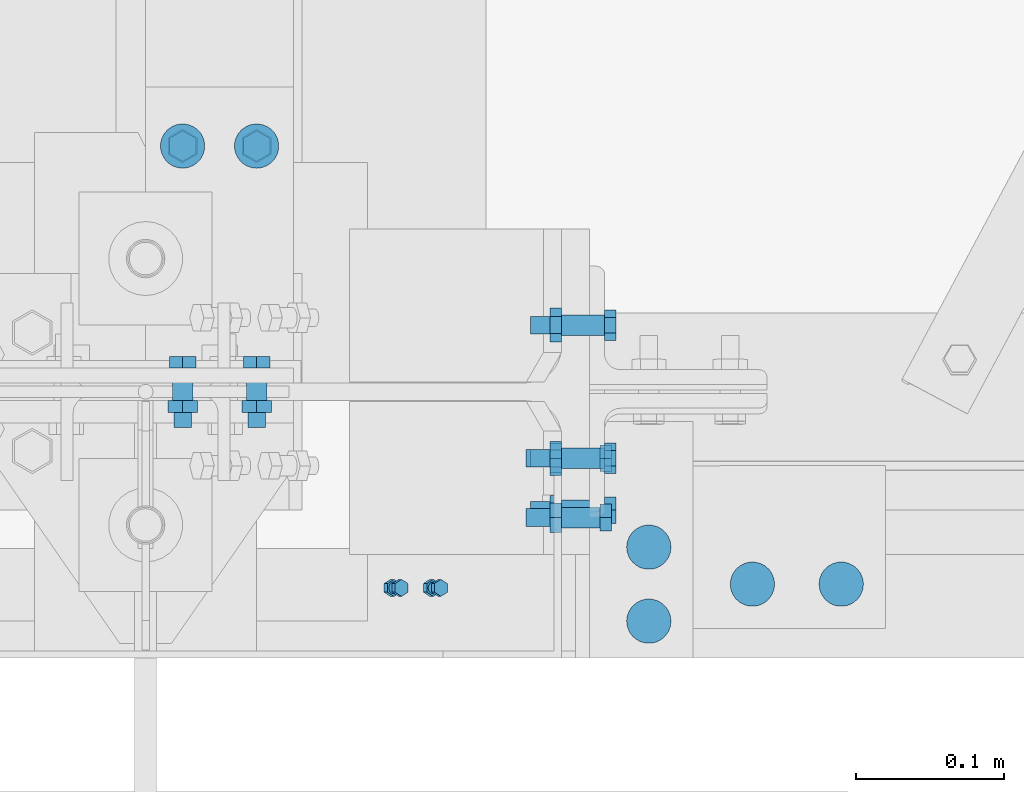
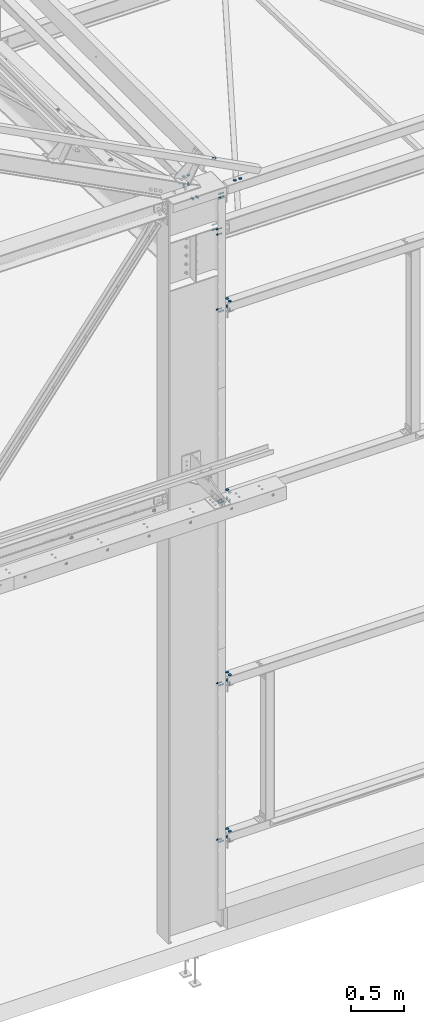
# One storey, part 271 of 362: 22 mechanical fasteners.
"""IFC2X3 building model written with IfcOpenShell, lengths in millimetres."""

import ifcopenshell
import ifcopenshell.guid

model = None  # the IFC model being written
_history = None  # IfcOwnerHistory: only IFC2X3 demands one
_inside = {}  # id of a spatial element -> (the spatial element, [elements in it])
_under = {}  # id of a project, library or spatial element -> (it, [spatial elements below it])
_declared = {}  # id of a project -> (the project, [libraries it declares])
_typed = {}  # id of a type object -> (the type object, [elements of that type])
_made_of = {}  # id of a material, layer set ... -> (it, [elements and type objects made of it])


def new_model(schema):
    """Start an empty IFC model of exactly this schema.

    Asked for "IFC4X3", IfcOpenShell would pick the latest addendum, in which some entities
    have other attributes; the version numbers below select the first issue.
    IFC2X3 requires an IfcOwnerHistory on every rooted entity: one is made here for all.
    """
    global model, _history
    if schema == "IFC4X3":
        model = ifcopenshell.file(schema_version=(4, 3, 0, 0))
    else:
        model = ifcopenshell.file(schema=schema)
    _inside.clear()
    _under.clear()
    _declared.clear()
    _typed.clear()
    _made_of.clear()
    _history = None
    if model.schema == "IFC2X3":
        org = make("IfcOrganization", Name="unknown")
        user = make(
            "IfcPersonAndOrganization",
            ThePerson=make("IfcPerson", FamilyName="unknown"),
            TheOrganization=org,
        )
        app = make(
            "IfcApplication",
            ApplicationDeveloper=org,
            Version="unknown",
            ApplicationFullName="unknown",
            ApplicationIdentifier="unknown",
        )
        _history = make(
            "IfcOwnerHistory",
            OwningUser=user,
            OwningApplication=app,
            ChangeAction="ADDED",
            CreationDate=0,
        )
    return model


def make(cls, **values):
    """One entity of the class cls with the attributes given. An attribute that is None is left unset."""
    return model.create_entity(
        cls, **{name: value for name, value in values.items() if value is not None}
    )


def rooted(cls, **values):
    """An entity with a GlobalId (a new one), such as an element, a storey or a relation."""
    return make(cls, GlobalId=ifcopenshell.guid.new(), OwnerHistory=_history, **values)


def si_unit(unit_type, name, prefix=None):
    """IfcSIUnit, for example si_unit("LENGTHUNIT", "METRE", prefix="MILLI")."""
    return make("IfcSIUnit", UnitType=unit_type, Prefix=prefix, Name=name)


def assignment(units):
    """IfcUnitAssignment: the units of a project."""
    return None if units is None else make("IfcUnitAssignment", Units=units)


def point(xyz):
    """IfcCartesianPoint."""
    return None if xyz is None else make("IfcCartesianPoint", Coordinates=xyz)


def direction(xyz):
    """IfcDirection."""
    return None if xyz is None else make("IfcDirection", DirectionRatios=xyz)


def frame(location, z_axis=None, x_axis=None):
    """IfcAxis2Placement3D, a coordinate frame: its origin and axes. An axis left out is left unset."""
    return make(
        "IfcAxis2Placement3D",
        Location=point(location),
        Axis=direction(z_axis),
        RefDirection=direction(x_axis),
    )


def frame_2d(location, x_axis=None):
    """IfcAxis2Placement2D, a coordinate frame in the plane: its origin and x axis."""
    return make(
        "IfcAxis2Placement2D", Location=point(location), RefDirection=direction(x_axis)
    )


def origin_with_axes():
    """The frame at (0, 0, 0) with the z axis (0, 0, 1) and the x axis (1, 0, 0) written out."""
    return frame((0.0, 0.0, 0.0), z_axis=(0.0, 0.0, 1.0), x_axis=(1.0, 0.0, 0.0))


def origin_2d_with_axis():
    """The frame at (0, 0) in the plane with the x axis (1, 0) written out."""
    return frame_2d((0.0, 0.0), x_axis=(1.0, 0.0))


def place(relative_to, where):
    """IfcLocalPlacement: puts the frame where relative to a parent placement (None: the world)."""
    return make(
        "IfcLocalPlacement", PlacementRelTo=relative_to, RelativePlacement=where
    )


def context(
    kind, dimensions, precision=None, world=None, true_north=None, identifier=None
):
    """IfcGeometricRepresentationContext, for example the 3D "Model" context."""
    return make(
        "IfcGeometricRepresentationContext",
        ContextIdentifier=identifier,
        ContextType=kind,
        CoordinateSpaceDimension=dimensions,
        Precision=precision,
        WorldCoordinateSystem=world,
        TrueNorth=true_north,
    )


def subcontext(parent, identifier, kind, view, scale=None):
    """IfcGeometricRepresentationSubContext, for example "Body" below "Model"."""
    return make(
        "IfcGeometricRepresentationSubContext",
        ContextIdentifier=identifier,
        ContextType=kind,
        ParentContext=parent,
        TargetScale=scale,
        TargetView=view,
    )


def project(units=None, contexts=None):
    """IfcProject with its units and contexts."""
    return rooted(
        "IfcProject",
        Name="project",
        RepresentationContexts=contexts,
        UnitsInContext=assignment(units),
    )


def spatial(cls, under=None, at=None, **own):
    """A site, building, storey or space (cls), placed at a placement, below another one or the project."""
    s = rooted(cls, ObjectPlacement=at, **own)
    if under is not None:
        _under.setdefault(under.id(), (under, []))[1].append(s)
    return s


def polyline(points):
    """IfcPolyline through the points."""
    return make("IfcPolyline", Points=[point(p) for p in points])


def profile(cls, at=None, kind="AREA", **sizes):
    """A parametric profile (cls). Its sizes go by their IFC names, for example OverallWidth=200.0."""
    return make(cls, ProfileType=kind, Position=at, **sizes)


def circle(**sizes):
    """IfcCircleProfileDef."""
    return profile("IfcCircleProfileDef", **sizes)


def outline(outer, holes=None, kind="AREA"):
    """IfcArbitraryClosedProfileDef: a profile drawn as a closed curve; with holes, ...WithVoids."""
    if holes is None:
        return make("IfcArbitraryClosedProfileDef", ProfileType=kind, OuterCurve=outer)
    return make(
        "IfcArbitraryProfileDefWithVoids",
        ProfileType=kind,
        OuterCurve=outer,
        InnerCurves=holes,
    )


def extrude(swept, where, along, depth):
    """IfcExtrudedAreaSolid: the profile swept, set in the frame where, extruded along a direction by depth."""
    return make(
        "IfcExtrudedAreaSolid",
        SweptArea=swept,
        Position=where,
        ExtrudedDirection=direction(along),
        Depth=depth,
    )


def shape(context_of_items, identifier, shape_type, items):
    """IfcShapeRepresentation: the items that make up one representation, for example the "Body"."""
    return make(
        "IfcShapeRepresentation",
        ContextOfItems=context_of_items,
        RepresentationIdentifier=identifier,
        RepresentationType=shape_type,
        Items=items,
    )


def source(mapping_origin, context_of_items, identifier, shape_type, items):
    """IfcRepresentationMap: a shape defined once, which mapped items show again and again."""
    return make(
        "IfcRepresentationMap",
        MappingOrigin=mapping_origin,
        MappedRepresentation=shape(context_of_items, identifier, shape_type, items),
    )


def transform(
    local_origin,
    x_axis=None,
    y_axis=None,
    z_axis=None,
    scale=None,
    scale2=None,
    scale3=None,
    uniform=True,
):
    """IfcCartesianTransformationOperator3D, or its non-uniform kind. x_axis, y_axis, z_axis: its Axis1, 2, 3."""
    if uniform:
        return make(
            "IfcCartesianTransformationOperator3D",
            Axis1=direction(x_axis),
            Axis2=direction(y_axis),
            LocalOrigin=point(local_origin),
            Scale=scale,
            Axis3=direction(z_axis),
        )
    return make(
        "IfcCartesianTransformationOperator3DnonUniform",
        Axis1=direction(x_axis),
        Axis2=direction(y_axis),
        LocalOrigin=point(local_origin),
        Scale=scale,
        Axis3=direction(z_axis),
        Scale2=scale2,
        Scale3=scale3,
    )


def mapped(mapping_source, mapping_target):
    """IfcMappedItem: shows the shape of a source again, moved by a transform."""
    return make(
        "IfcMappedItem", MappingSource=mapping_source, MappingTarget=mapping_target
    )


def material(Name=None, Category=None):
    """IfcMaterial."""
    return make("IfcMaterial", Name=Name, Category=Category)


def made_of(thing, what):
    """Note that an element or type object is made of a material, layer set ...; save() writes the relation."""
    if what is not None:
        _made_of.setdefault(what.id(), (what, []))[1].append(thing)
    return thing


def type_object(cls, material=None, **own):
    """A type object (cls), such as IfcWallType, which elements share."""
    return made_of(rooted(cls, **own), material)


def element(
    cls,
    number,
    at=None,
    inside=None,
    cuts=None,
    type_object=None,
    material=None,
    context=None,
    identifier="Body",
    shape_type=None,
    held_by="IfcProductDefinitionShape",
    body=None,
    shapes=None,
    **own,
):
    """One element of the class cls, such as IfcWall. Its Tag is "e" and its number.

    at: its placement. inside: the storey or other place that contains it. cuts: it is an
    opening in that element (IfcRelVoidsElement). A single representation is given by context,
    identifier, shape_type and body (its items); several are given by shapes. held_by: the class
    of the entity that holds the representations. save() writes the other relations.
    """
    e = rooted(cls, Tag="e%d" % number, ObjectPlacement=at, **own)
    if body is not None:
        shapes = [shape(context, identifier, shape_type, body)]
    if shapes is not None:
        e.Representation = make(held_by, Representations=shapes)
    if inside is not None:
        _inside.setdefault(inside.id(), (inside, []))[1].append(e)
    if cuts is not None:
        rooted(
            "IfcRelVoidsElement", RelatingBuildingElement=cuts, RelatedOpeningElement=e
        )
    if type_object is not None:
        _typed.setdefault(type_object.id(), (type_object, []))[1].append(e)
    return made_of(e, material)


def aggregate(whole, parts):
    """IfcRelAggregates: a whole, such as a stair, and the parts it consists of."""
    return rooted("IfcRelAggregates", RelatingObject=whole, RelatedObjects=parts)


def save(model, path):
    """Write the relations noted so far, then the file.

    IfcRelAggregates (storeys below a building ...), IfcRelContainedInSpatialStructure (elements
    in a storey), IfcRelDefinesByType, IfcRelAssociatesMaterial and IfcRelDeclares: one each for
    every whole, place, type object, material and project.
    """
    for whole, parts in _under.values():
        aggregate(whole, parts)
    for where, things in _inside.values():
        rooted(
            "IfcRelContainedInSpatialStructure",
            RelatedElements=things,
            RelatingStructure=where,
        )
    for kind, things in _typed.values():
        rooted("IfcRelDefinesByType", RelatedObjects=things, RelatingType=kind)
    for what, things in _made_of.values():
        rooted("IfcRelAssociatesMaterial", RelatedObjects=things, RelatingMaterial=what)
    for by, libraries in _declared.values():
        rooted("IfcRelDeclares", RelatingContext=by, RelatedDefinitions=libraries)
    model.write(path)


model = new_model("IFC2X3")

# Units and contexts
model_context = context("Model", 3, precision=1e-05, world=origin_with_axes())
body_context = subcontext(model_context, "Body", "Model", "MODEL_VIEW")
ifc_project = project(units=[si_unit("LENGTHUNIT", "METRE", prefix="MILLI"), si_unit("AREAUNIT", "SQUARE_METRE"), si_unit("VOLUMEUNIT", "CUBIC_METRE"), si_unit("MASSUNIT", "GRAM", prefix="KILO"), si_unit("TIMEUNIT", "SECOND"), si_unit("PLANEANGLEUNIT", "RADIAN"), si_unit("SOLIDANGLEUNIT", "STERADIAN"), si_unit("THERMODYNAMICTEMPERATUREUNIT", "DEGREE_CELSIUS"), si_unit("LUMINOUSINTENSITYUNIT", "LUMEN")], contexts=[model_context])

# Site, building, storey
site_placement = place(None, origin_with_axes())
site = spatial("IfcSite", under=ifc_project, at=site_placement, Name="Undefined", CompositionType="ELEMENT")
building_placement = place(site_placement, origin_with_axes())
building = spatial("IfcBuilding", under=site, at=building_placement, Name="Undefined", CompositionType="ELEMENT")
storey_placement = place(building_placement, origin_with_axes())
storey = spatial("IfcBuildingStorey", under=building, at=storey_placement, Name="Undefined", CompositionType="ELEMENT", Elevation=0.0)

# Mechanical fasteners
ifc_material_1 = material(Name="6.8")
mechanical_fastener_type = type_object("IfcMechanicalFastenerType", Name="Bolt assembly")
shared_shape_1 = source(origin_with_axes(), body_context, "Body", "SweptSolid", [
    extrude(circle(Radius=15.0, at=origin_2d_with_axis()), frame((0.0, 0.0, 0.0), z_axis=(0.0, 1.0, 0.0), x_axis=(1.0, 0.0, 0.0)), (0.0, 0.0, 1.0), 4.1),
])
mechanical_fastener_1_placement = place(storey_placement, frame((28930.0, 166.0, 8550.0), z_axis=(1.0, 0.0, 0.0), x_axis=(0.0, -1.0, 0.0)))
element("IfcMechanicalFastener", 1, at=mechanical_fastener_1_placement, inside=storey, type_object=mechanical_fastener_type, material=ifc_material_1, Name="Bolt assembly", NominalDiameter=30.0, NominalLength=4.0, context=body_context, shape_type="MappedRepresentation", body=[
    mapped(shared_shape_1, transform((0.0, 0.0, -25.0))),
    mapped(shared_shape_1, transform((0.0, 0.0, 25.0))),
])
shared_shape_2 = source(origin_with_axes(), body_context, "Body", "SweptSolid", [
    extrude(circle(Radius=4.0, at=origin_2d_with_axis()), frame((0.0, 0.000837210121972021, 0.0), z_axis=(0.0, 1.0, 0.0), x_axis=(1.0, 0.0, 0.0)), (0.0, 0.0, 1.0), 7.1),
    extrude(outline(polyline([(5.7735026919, 0.0), (2.88675134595, 5.00000000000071), (-2.88675134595, 5.00000000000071), (-5.7735026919, 0.0), (-2.88675134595, -5.00000000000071), (2.88675134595, -5.00000000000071), (5.7735026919, 0.0)])), frame((0.0, -3.99916278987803, 0.0), z_axis=(0.0, 1.0, 0.0), x_axis=(1.0, 0.0, 0.0)), (0.0, 0.0, 1.0), 4.0),
    extrude(circle(Radius=3.0, at=origin_2d_with_axis()), frame((0.0, 0.000837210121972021, 0.0), z_axis=(0.0, 1.0, 0.0), x_axis=(1.0, 0.0, 0.0)), (0.0, 0.0, 1.0), 16.0),
    extrude(outline(polyline([(5.7735026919, 0.0), (2.88675134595, 5.00000000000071), (-2.88675134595, 5.00000000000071), (-5.7735026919, 0.0), (-2.88675134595, -5.00000000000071), (2.88675134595, -5.00000000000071), (5.7735026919, 0.0)])), frame((0.0, 7.0008372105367, 0.0), z_axis=(0.0, 1.0, 0.0), x_axis=(1.0, 0.0, 0.0)), (0.0, 0.0, 1.0), 5.2),
])
mechanical_fastener_2_placement = place(storey_placement, frame((29064.3880632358, -132.499920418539, 8885.83081019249), z_axis=(-0.887875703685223, 0.0, 0.460083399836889), x_axis=(0.0, 1.0, 0.0)))
element("IfcMechanicalFastener", 2, at=mechanical_fastener_2_placement, inside=storey, type_object=mechanical_fastener_type, material=ifc_material_1, Name="Bolt assembly", NominalDiameter=6.0, NominalLength=16.0, context=body_context, shape_type="MappedRepresentation", body=[
    mapped(shared_shape_2, transform((0.0, 0.0, -15.0))),
    mapped(shared_shape_2, transform((0.0, -3.63797880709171e-12, 15.0000000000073))),
])
ifc_material_2 = material(Name="8.8-SB-ZINGUE")
shared_shape_3 = source(origin_with_axes(), body_context, "Body", "SweptSolid", [
    extrude(circle(Radius=7.0, at=origin_2d_with_axis()), frame((0.0, -3.89999843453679, 0.0), z_axis=(0.0, 1.0, 0.0), x_axis=(1.0, 0.0, 0.0)), (0.0, 0.0, 1.0), 4.0),
    extrude(circle(Radius=7.0, at=origin_2d_with_axis()), frame((0.0, -0.100011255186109, 0.0), z_axis=(0.0, 1.0, 0.0), x_axis=(1.0, 0.0, 0.0)), (0.0, 0.0, 1.0), 10.1),
    extrude(outline(polyline([(10.39230484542, 0.0), (5.19615242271, 9.00000000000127), (-5.19615242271, 9.00000000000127), (-10.39230484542, 0.0), (-5.19615242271, -9.00000000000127), (5.19615242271, -9.00000000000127), (10.39230484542, 0.0)])), frame((0.0, -11.9199984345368, 0.0), z_axis=(0.0, 1.0, 0.0), x_axis=(1.0, 0.0, 0.0)), (0.0, 0.0, 1.0), 7.92),
    extrude(circle(Radius=6.0, at=origin_2d_with_axis()), frame((0.0, -3.99999923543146, 0.0), z_axis=(0.0, 1.0, 0.0), x_axis=(1.0, 0.0, 0.0)), (0.0, 0.0, 1.0), 30.0),
    extrude(outline(polyline([(11.5008173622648, 0.0), (5.7504086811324, 9.96000000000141), (-5.7504086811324, 9.96000000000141), (-11.5008173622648, 0.0), (-5.7504086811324, -9.96000000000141), (5.7504086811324, -9.96000000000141), (11.5008173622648, 0.0)])), frame((0.0, 10.0000000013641, 0.0), z_axis=(0.0, 1.0, 0.0), x_axis=(1.0, 0.0, 0.0)), (0.0, 0.0, 1.0), 7.92),
])
mechanical_fastener_3_placement = place(storey_placement, frame((28930.0, 166.0, 8450.0), z_axis=(1.0, 0.0, 0.0), x_axis=(0.0, -1.0, 0.0)))
element("IfcMechanicalFastener", 3, at=mechanical_fastener_3_placement, inside=storey, type_object=mechanical_fastener_type, material=ifc_material_2, Name="Bolt assembly", NominalDiameter=12.0, NominalLength=30.0, context=body_context, shape_type="MappedRepresentation", body=[
    mapped(shared_shape_3, transform((0.0, 0.0, -25.0))),
    mapped(shared_shape_3, transform((0.0, 0.0, 25.0))),
])
shared_shape_4 = source(origin_with_axes(), body_context, "Body", "SweptSolid", [
    extrude(circle(Radius=15.0, at=origin_2d_with_axis()), frame((0.0, -0.00127693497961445, 0.0), z_axis=(0.0, 1.0, 0.0), x_axis=(1.0, 0.0, 0.0)), (0.0, 0.0, 1.0), 4.1),
])
mechanical_fastener_4_placement = place(storey_placement, frame((29349.9919475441, -130.000005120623, 8549.99872306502), z_axis=(0.0, -1.0, 0.0), x_axis=(-1.0, 0.0, 0.0)))
element("IfcMechanicalFastener", 4, at=mechanical_fastener_4_placement, inside=storey, type_object=mechanical_fastener_type, material=ifc_material_1, Name="Bolt assembly", NominalDiameter=30.0, NominalLength=4.0, context=body_context, shape_type="MappedRepresentation", body=[
    mapped(shared_shape_4, transform((0.0, 0.0, 0.0))),
    mapped(shared_shape_4, transform((60.0, 0.0, 0.0))),
])
shared_shape_5 = source(origin_with_axes(), body_context, "Body", "SweptSolid", [
    extrude(circle(Radius=7.0, at=origin_2d_with_axis()), frame((0.0, -0.105205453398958, 0.0), z_axis=(0.0, 1.0, 0.0), x_axis=(1.0, 0.0, 0.0)), (0.0, 0.0, 1.0), 19.1),
    extrude(circle(Radius=7.0, at=origin_2d_with_axis()), frame((0.0, -9.90024512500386, 0.0), z_axis=(0.0, 1.0, 0.0), x_axis=(1.0, 0.0, 0.0)), (0.0, 0.0, 1.0), 10.0),
    extrude(outline(polyline([(10.39230484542, 0.0), (5.19615242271, 9.00000000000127), (-5.19615242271, 9.00000000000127), (-10.39230484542, 0.0), (-5.19615242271, -9.00000000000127), (5.19615242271, -9.00000000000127), (10.39230484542, 0.0)])), frame((0.0, -17.9202451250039, 0.0), z_axis=(0.0, 1.0, 0.0), x_axis=(1.0, 0.0, 0.0)), (0.0, 0.0, 1.0), 7.92),
    extrude(circle(Radius=6.0, at=origin_2d_with_axis()), frame((0.0, -10.0002451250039, 0.0), z_axis=(0.0, 1.0, 0.0), x_axis=(1.0, 0.0, 0.0)), (0.0, 0.0, 1.0), 50.0),
    extrude(outline(polyline([(11.5008173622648, 0.0), (5.7504086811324, 9.96000000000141), (-5.7504086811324, 9.96000000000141), (-11.5008173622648, 0.0), (-5.7504086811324, -9.96000000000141), (5.7504086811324, -9.96000000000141), (11.5008173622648, 0.0)])), frame((0.0, 18.994794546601, 0.0), z_axis=(0.0, 1.0, 0.0), x_axis=(1.0, 0.0, 0.0)), (0.0, 0.0, 1.0), 7.92),
])
mechanical_fastener_5_placement = place(storey_placement, frame((29179.9947424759, -80.0000085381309, 8369.99872306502), z_axis=(0.0, -1.0, 0.0), x_axis=(0.0, 0.0, 1.0)))
element("IfcMechanicalFastener", 5, at=mechanical_fastener_5_placement, inside=storey, type_object=mechanical_fastener_type, material=ifc_material_2, Name="Bolt assembly", NominalDiameter=12.0, NominalLength=50.0, context=body_context, shape_type="MappedRepresentation", body=[
    mapped(shared_shape_5, transform((0.0, 0.0, 0.0))),
    mapped(shared_shape_5, transform((40.0, 0.0, 0.0))),
])
shared_shape_6 = source(origin_with_axes(), body_context, "Body", "SweptSolid", [
    extrude(circle(Radius=7.0, at=origin_2d_with_axis()), frame((0.0, -0.100011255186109, 0.0), z_axis=(0.0, 1.0, 0.0), x_axis=(1.0, 0.0, 0.0)), (0.0, 0.0, 1.0), 12.1),
    extrude(circle(Radius=7.0, at=origin_2d_with_axis()), frame((0.0, -9.9, 0.0), z_axis=(0.0, 1.0, 0.0), x_axis=(1.0, 0.0, 0.0)), (0.0, 0.0, 1.0), 10.0),
    extrude(outline(polyline([(10.39230484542, 0.0), (5.19615242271, 9.00000000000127), (-5.19615242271, 9.00000000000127), (-10.39230484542, 0.0), (-5.19615242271, -9.00000000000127), (5.19615242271, -9.00000000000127), (10.39230484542, 0.0)])), frame((0.0, -17.92, 0.0), z_axis=(0.0, 1.0, 0.0), x_axis=(1.0, 0.0, 0.0)), (0.0, 0.0, 1.0), 7.92),
    extrude(circle(Radius=6.0, at=origin_2d_with_axis()), frame((0.0, -10.0000010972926, 0.0), z_axis=(0.0, 1.0, 0.0), x_axis=(1.0, 0.0, 0.0)), (0.0, 0.0, 1.0), 40.0),
    extrude(outline(polyline([(11.5008173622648, 0.0), (5.7504086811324, 9.96000000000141), (-5.7504086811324, 9.96000000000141), (-11.5008173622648, 0.0), (-5.7504086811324, -9.96000000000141), (5.7504086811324, -9.96000000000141), (11.5008173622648, 0.0)])), frame((0.0, 12.0000270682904, 0.0), z_axis=(0.0, 1.0, 0.0), x_axis=(1.0, 0.0, 0.0)), (0.0, 0.0, 1.0), 7.92),
])
mechanical_fastener_6_placement = place(storey_placement, frame((28930.0, 6.0, 8395.0), z_axis=(1.0, 0.0, 0.0), x_axis=(0.0, 0.0, 1.0)))
element("IfcMechanicalFastener", 6, at=mechanical_fastener_6_placement, inside=storey, type_object=mechanical_fastener_type, material=ifc_material_2, Name="Bolt assembly", NominalDiameter=12.0, NominalLength=40.0, context=body_context, shape_type="MappedRepresentation", body=[
    mapped(shared_shape_6, transform((0.0, 0.0, -25.0))),
    mapped(shared_shape_6, transform((0.0, 0.0, 25.0))),
])
shared_shape_7 = source(origin_with_axes(), body_context, "Body", "SweptSolid", [
    extrude(circle(Radius=7.0, at=origin_2d_with_axis()), frame((0.0, -0.0976770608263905, 0.0), z_axis=(0.0, 1.0, 0.0), x_axis=(1.0, 0.0, 0.0)), (0.0, 0.0, 1.0), 19.1),
    extrude(circle(Radius=7.0, at=origin_2d_with_axis()), frame((0.0, -9.9, 0.0), z_axis=(0.0, 1.0, 0.0), x_axis=(1.0, 0.0, 0.0)), (0.0, 0.0, 1.0), 10.0),
    extrude(outline(polyline([(10.39230484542, 0.0), (5.19615242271, 9.00000000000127), (-5.19615242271, 9.00000000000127), (-10.39230484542, 0.0), (-5.19615242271, -9.00000000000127), (5.19615242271, -9.00000000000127), (10.39230484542, 0.0)])), frame((0.0, -17.92, 0.0), z_axis=(0.0, 1.0, 0.0), x_axis=(1.0, 0.0, 0.0)), (0.0, 0.0, 1.0), 7.92),
    extrude(circle(Radius=6.0, at=origin_2d_with_axis()), frame((0.0, -10.0000010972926, 0.0), z_axis=(0.0, 1.0, 0.0), x_axis=(1.0, 0.0, 0.0)), (0.0, 0.0, 1.0), 50.0),
    extrude(outline(polyline([(11.5008173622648, 0.0), (5.7504086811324, 9.96000000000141), (-5.7504086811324, 9.96000000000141), (-11.5008173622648, 0.0), (-5.7504086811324, -9.96000000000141), (5.7504086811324, -9.96000000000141), (11.5008173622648, 0.0)])), frame((0.0, 19.0023229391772, 0.0), z_axis=(0.0, 1.0, 0.0), x_axis=(1.0, 0.0, 0.0)), (0.0, 0.0, 1.0), 7.92),
])
for number, where, z_axis, x_axis, name in (
    (7, (29180.0021428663, 44.9977331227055, 7978.55473722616), (0.0, 0.0, 1.0), (0.0, 1.0, 0.0), "Bolt assembly"),
    (8, (29180.0021428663, 44.9977331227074, 7918.52511536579), (0.0, 0.0, 1.0), (0.0, 1.0, 0.0), "Bolt assembly"),
    (9, (29180.0021428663, -45.0022668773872, 7921.3535206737), (0.0, 0.0, -1.0), (0.0, -1.0, 0.0), "Bolt assembly"),
    (10, (29180.0021428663, -45.0022668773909, 7981.38314253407), (0.0, 0.0, -1.0), (0.0, -1.0, 0.0), "Bolt assembly"),
):
    element("IfcMechanicalFastener", number, at=place(storey_placement, frame(where, z_axis=z_axis, x_axis=x_axis)), inside=storey, type_object=mechanical_fastener_type, material=ifc_material_2, Name=name, NominalDiameter=12.0, NominalLength=50.0, context=body_context, shape_type="MappedRepresentation", body=[
        mapped(shared_shape_7, transform((0.0, 0.0, 0.0))),
    ])
shared_shape_8 = source(origin_with_axes(), body_context, "Body", "SweptSolid", [
    extrude(circle(Radius=7.0, at=origin_2d_with_axis()), frame((0.0, -0.0970209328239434, 0.0), z_axis=(0.0, 1.0, 0.0), x_axis=(1.0, 0.0, 0.0)), (0.0, 0.0, 1.0), 19.1),
    extrude(circle(Radius=7.0, at=origin_2d_with_axis()), frame((0.0, -6.900741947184, 0.0), z_axis=(0.0, 1.0, 0.0), x_axis=(1.0, 0.0, 0.0)), (0.0, 0.0, 1.0), 7.0),
    extrude(outline(polyline([(10.39230484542, 0.0), (5.19615242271, 9.00000000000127), (-5.19615242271, 9.00000000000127), (-10.39230484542, 0.0), (-5.19615242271, -9.00000000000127), (5.19615242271, -9.00000000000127), (10.39230484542, 0.0)])), frame((0.0, -14.920741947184, 0.0), z_axis=(0.0, 1.0, 0.0), x_axis=(1.0, 0.0, 0.0)), (0.0, 0.0, 1.0), 7.92),
    extrude(circle(Radius=6.0, at=origin_2d_with_axis()), frame((0.0, -7.000741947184, 0.0), z_axis=(0.0, 1.0, 0.0), x_axis=(1.0, 0.0, 0.0)), (0.0, 0.0, 1.0), 50.0),
    extrude(outline(polyline([(11.5008173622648, 0.0), (5.7504086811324, 9.96000000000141), (-5.7504086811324, 9.96000000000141), (-11.5008173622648, 0.0), (-5.7504086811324, -9.96000000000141), (5.7504086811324, -9.96000000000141), (11.5008173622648, 0.0)])), frame((0.0, 19.0030043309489, 0.0), z_axis=(0.0, 1.0, 0.0), x_axis=(1.0, 0.0, 0.0)), (0.0, 0.0, 1.0), 7.92),
])
mechanical_fastener_7_placement = place(storey_placement, frame((29180.0005291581, -65.0000001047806, 959.992196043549), z_axis=(0.0, -1.0, 0.0), x_axis=(-5.58310001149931e-05, -3.00000033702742e-09, 0.99999999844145)))
element("IfcMechanicalFastener", 11, at=mechanical_fastener_7_placement, inside=storey, type_object=mechanical_fastener_type, material=ifc_material_2, Name="Bolt assembly", NominalDiameter=12.0, NominalLength=50.0, context=body_context, shape_type="MappedRepresentation", body=[
    mapped(shared_shape_8, transform((-1.70530256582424e-12, 0.0, 20.0))),
    mapped(shared_shape_8, transform((1.70530256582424e-12, 0.0, -20.0))),
])
shared_shape_9 = source(origin_with_axes(), body_context, "Body", "SweptSolid", [
    extrude(circle(Radius=7.0, at=origin_2d_with_axis()), frame((0.0, -0.0960977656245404, 0.0), z_axis=(0.0, 1.0, 0.0), x_axis=(1.0, 0.0, 0.0)), (0.0, 0.0, 1.0), 4.1),
    extrude(circle(Radius=7.0, at=origin_2d_with_axis()), frame((0.0, -6.9, 0.0), z_axis=(0.0, 1.0, 0.0), x_axis=(1.0, 0.0, 0.0)), (0.0, 0.0, 1.0), 7.0),
    extrude(outline(polyline([(10.39230484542, 0.0), (5.19615242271, 9.00000000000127), (-5.19615242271, 9.00000000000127), (-10.39230484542, 0.0), (-5.19615242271, -9.00000000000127), (5.19615242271, -9.00000000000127), (10.39230484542, 0.0)])), frame((0.0, -14.92, 0.0), z_axis=(0.0, 1.0, 0.0), x_axis=(1.0, 0.0, 0.0)), (0.0, 0.0, 1.0), 7.92),
    extrude(circle(Radius=6.0, at=origin_2d_with_axis()), frame((0.0, -7.0, 0.0), z_axis=(0.0, 1.0, 0.0), x_axis=(1.0, 0.0, 0.0)), (0.0, 0.0, 1.0), 30.0),
    extrude(outline(polyline([(11.5008173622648, 0.0), (5.7504086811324, 9.96000000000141), (-5.7504086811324, 9.96000000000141), (-11.5008173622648, 0.0), (-5.7504086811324, -9.96000000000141), (5.7504086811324, -9.96000000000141), (11.5008173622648, 0.0)])), frame((0.0, 4.00390223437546, 0.0), z_axis=(0.0, 1.0, 0.0), x_axis=(1.0, 0.0, 0.0)), (0.0, 0.0, 1.0), 7.92),
])
for number, where, z_axis, x_axis, name in (
    (12, (29220.0012715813, -130.000007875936, 999.996098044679), (0.0, 1.0, 0.0), (-1.0, 0.0, 0.0), "Bolt assembly"),
    (13, (29220.0012288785, -130.000007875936, 7099.99609804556), (0.0, 1.0, 0.0), (-1.0, 0.0, 0.0), "Bolt assembly"),
    (14, (29220.0012589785, -130.000007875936, 2799.99609804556), (0.0, 1.0, 0.0), (-1.0, 0.0, 0.0), "Bolt assembly"),
    (15, (29220.0012589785, -130.000007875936, 4899.99609804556), (0.0, 1.0, 0.0), (-1.0, 0.0, 0.0), "Bolt assembly"),
):
    element("IfcMechanicalFastener", number, at=place(storey_placement, frame(where, z_axis=z_axis, x_axis=x_axis)), inside=storey, type_object=mechanical_fastener_type, material=ifc_material_2, Name=name, NominalDiameter=12.0, NominalLength=30.0, context=body_context, shape_type="MappedRepresentation", body=[
        mapped(shared_shape_9, transform((0.0, 0.0, -25.0))),
        mapped(shared_shape_9, transform((0.0, 0.0, 25.0))),
    ])
shared_shape_10 = source(origin_with_axes(), body_context, "Body", "SweptSolid", [
    extrude(circle(Radius=15.0, at=origin_2d_with_axis()), frame((0.0, -3.99609776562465, 0.0), z_axis=(0.0, 1.0, 0.0), x_axis=(1.0, 0.0, 0.0)), (0.0, 0.0, 1.0), 4.1),
])
for number, where, z_axis, x_axis, name in (
    (16, (29220.0012710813, -130.000008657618, 1099.99609804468), (0.0, 1.0, 0.0), (-1.0, 0.0, 0.0), "Bolt assembly"),
    (17, (29220.0012283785, -130.000008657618, 7199.99609804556), (0.0, 1.0, 0.0), (-1.0, 0.0, 0.0), "Bolt assembly"),
    (18, (29220.0012584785, -130.000008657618, 2899.99609804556), (0.0, 1.0, 0.0), (-1.0, 0.0, 0.0), "Bolt assembly"),
    (19, (29220.0012584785, -130.000008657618, 4999.99609804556), (0.0, 1.0, 0.0), (-1.0, 0.0, 0.0), "Bolt assembly"),
):
    element("IfcMechanicalFastener", number, at=place(storey_placement, frame(where, z_axis=z_axis, x_axis=x_axis)), inside=storey, type_object=mechanical_fastener_type, material=ifc_material_1, Name=name, NominalDiameter=30.0, NominalLength=4.0, context=body_context, shape_type="MappedRepresentation", body=[
        mapped(shared_shape_10, transform((0.0, 0.0, -25.0))),
        mapped(shared_shape_10, transform((0.0, 0.0, 25.0))),
    ])
shared_shape_11 = source(origin_with_axes(), body_context, "Body", "SweptSolid", [
    extrude(circle(Radius=7.0, at=origin_2d_with_axis()), frame((0.0, -0.0990448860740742, 0.0), z_axis=(0.0, 1.0, 0.0), x_axis=(1.0, 0.0, 0.0)), (0.0, 0.0, 1.0), 19.1),
    extrude(circle(Radius=7.0, at=origin_2d_with_axis()), frame((0.0, -6.900741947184, 0.0), z_axis=(0.0, 1.0, 0.0), x_axis=(1.0, 0.0, 0.0)), (0.0, 0.0, 1.0), 7.0),
    extrude(outline(polyline([(10.39230484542, 0.0), (5.19615242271, 9.00000000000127), (-5.19615242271, 9.00000000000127), (-10.39230484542, 0.0), (-5.19615242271, -9.00000000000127), (5.19615242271, -9.00000000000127), (10.39230484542, 0.0)])), frame((0.0, -14.920741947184, 0.0), z_axis=(0.0, 1.0, 0.0), x_axis=(1.0, 0.0, 0.0)), (0.0, 0.0, 1.0), 7.92),
    extrude(circle(Radius=6.0, at=origin_2d_with_axis()), frame((0.0, -7.000741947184, 0.0), z_axis=(0.0, 1.0, 0.0), x_axis=(1.0, 0.0, 0.0)), (0.0, 0.0, 1.0), 50.0),
    extrude(outline(polyline([(11.5008173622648, 0.0), (5.7504086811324, 9.96000000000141), (-5.7504086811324, 9.96000000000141), (-11.5008173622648, 0.0), (-5.7504086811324, -9.96000000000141), (5.7504086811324, -9.96000000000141), (11.5008173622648, 0.0)])), frame((0.0, 19.0009669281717, 0.0), z_axis=(0.0, 1.0, 0.0), x_axis=(1.0, 0.0, 0.0)), (0.0, 0.0, 1.0), 7.92),
])
mechanical_fastener_8_placement = place(storey_placement, frame((29180.0004864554, -65.0000001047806, 7059.99219604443), z_axis=(0.0, -1.0, 0.0), x_axis=(-5.58310001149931e-05, -3.00000033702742e-09, 0.99999999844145)))
element("IfcMechanicalFastener", 20, at=mechanical_fastener_8_placement, inside=storey, type_object=mechanical_fastener_type, material=ifc_material_2, Name="Bolt assembly", NominalDiameter=12.0, NominalLength=50.0, context=body_context, shape_type="MappedRepresentation", body=[
    mapped(shared_shape_11, transform((-1.70530256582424e-12, 0.0, 20.0))),
    mapped(shared_shape_11, transform((1.70530256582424e-12, 0.0, -20.0))),
])
shared_shape_12 = source(origin_with_axes(), body_context, "Body", "SweptSolid", [
    extrude(circle(Radius=7.0, at=origin_2d_with_axis()), frame((0.0, -0.0976109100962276, 0.0), z_axis=(0.0, 1.0, 0.0), x_axis=(1.0, 0.0, 0.0)), (0.0, 0.0, 1.0), 19.1),
    extrude(circle(Radius=7.0, at=origin_2d_with_axis()), frame((0.0, -6.900741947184, 0.0), z_axis=(0.0, 1.0, 0.0), x_axis=(1.0, 0.0, 0.0)), (0.0, 0.0, 1.0), 7.0),
    extrude(outline(polyline([(10.39230484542, 0.0), (5.19615242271, 9.00000000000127), (-5.19615242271, 9.00000000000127), (-10.39230484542, 0.0), (-5.19615242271, -9.00000000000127), (5.19615242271, -9.00000000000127), (10.39230484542, 0.0)])), frame((0.0, -14.920741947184, 0.0), z_axis=(0.0, 1.0, 0.0), x_axis=(1.0, 0.0, 0.0)), (0.0, 0.0, 1.0), 7.92),
    extrude(circle(Radius=6.0, at=origin_2d_with_axis()), frame((0.0, -7.000741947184, 0.0), z_axis=(0.0, 1.0, 0.0), x_axis=(1.0, 0.0, 0.0)), (0.0, 0.0, 1.0), 50.0),
    extrude(outline(polyline([(11.5008173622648, 0.0), (5.7504086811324, 9.96000000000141), (-5.7504086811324, 9.96000000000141), (-11.5008173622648, 0.0), (-5.7504086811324, -9.96000000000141), (5.7504086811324, -9.96000000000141), (11.5008173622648, 0.0)])), frame((0.0, 19.0024031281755, 0.0), z_axis=(0.0, 1.0, 0.0), x_axis=(1.0, 0.0, 0.0)), (0.0, 0.0, 1.0), 7.92),
])
mechanical_fastener_9_placement = place(storey_placement, frame((29180.0005165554, -65.0000001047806, 2759.99219604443), z_axis=(0.0, -1.0, 0.0), x_axis=(-5.58310001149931e-05, -3.00000033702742e-09, 0.99999999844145)))
element("IfcMechanicalFastener", 21, at=mechanical_fastener_9_placement, inside=storey, type_object=mechanical_fastener_type, material=ifc_material_2, Name="Bolt assembly", NominalDiameter=12.0, NominalLength=50.0, context=body_context, shape_type="MappedRepresentation", body=[
    mapped(shared_shape_12, transform((-1.70530256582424e-12, 0.0, 20.0))),
    mapped(shared_shape_12, transform((1.70530256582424e-12, 0.0, -20.0))),
])
shared_shape_13 = source(origin_with_axes(), body_context, "Body", "SweptSolid", [
    extrude(circle(Radius=7.0, at=origin_2d_with_axis()), frame((0.0, -0.0982394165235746, 0.0), z_axis=(0.0, 1.0, 0.0), x_axis=(1.0, 0.0, 0.0)), (0.0, 0.0, 1.0), 19.1),
    extrude(circle(Radius=7.0, at=origin_2d_with_axis()), frame((0.0, -6.900741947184, 0.0), z_axis=(0.0, 1.0, 0.0), x_axis=(1.0, 0.0, 0.0)), (0.0, 0.0, 1.0), 7.0),
    extrude(outline(polyline([(10.39230484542, 0.0), (5.19615242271, 9.00000000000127), (-5.19615242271, 9.00000000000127), (-10.39230484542, 0.0), (-5.19615242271, -9.00000000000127), (5.19615242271, -9.00000000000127), (10.39230484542, 0.0)])), frame((0.0, -14.920741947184, 0.0), z_axis=(0.0, 1.0, 0.0), x_axis=(1.0, 0.0, 0.0)), (0.0, 0.0, 1.0), 7.92),
    extrude(circle(Radius=6.0, at=origin_2d_with_axis()), frame((0.0, -7.000741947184, 0.0), z_axis=(0.0, 1.0, 0.0), x_axis=(1.0, 0.0, 0.0)), (0.0, 0.0, 1.0), 50.0),
    extrude(outline(polyline([(11.5008173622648, 0.0), (5.7504086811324, 9.96000000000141), (-5.7504086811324, 9.96000000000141), (-11.5008173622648, 0.0), (-5.7504086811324, -9.96000000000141), (5.7504086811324, -9.96000000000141), (11.5008173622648, 0.0)])), frame((0.0, 19.0017164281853, 0.0), z_axis=(0.0, 1.0, 0.0), x_axis=(1.0, 0.0, 0.0)), (0.0, 0.0, 1.0), 7.92),
])
mechanical_fastener_10_placement = place(storey_placement, frame((29180.0005165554, -65.000000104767, 4859.99219604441), z_axis=(0.0, -1.0, 0.0), x_axis=(-5.58310001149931e-05, -3.00000033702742e-09, 0.99999999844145)))
element("IfcMechanicalFastener", 22, at=mechanical_fastener_10_placement, inside=storey, type_object=mechanical_fastener_type, material=ifc_material_2, Name="Bolt assembly", NominalDiameter=12.0, NominalLength=50.0, context=body_context, shape_type="MappedRepresentation", body=[
    mapped(shared_shape_13, transform((-1.70530256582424e-12, 0.0, 20.0))),
    mapped(shared_shape_13, transform((1.70530256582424e-12, 0.0, -20.0))),
])

save(model, "model.ifc")
